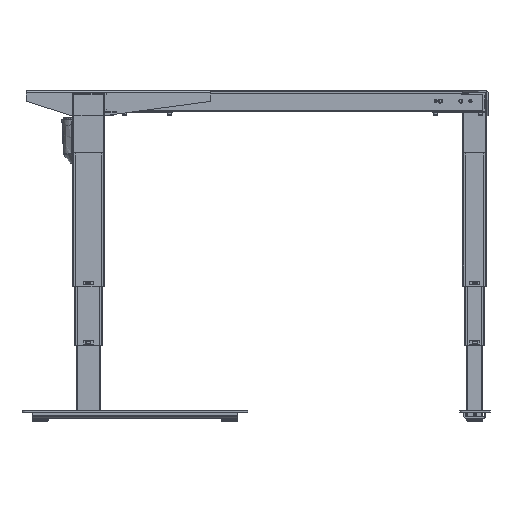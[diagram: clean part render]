
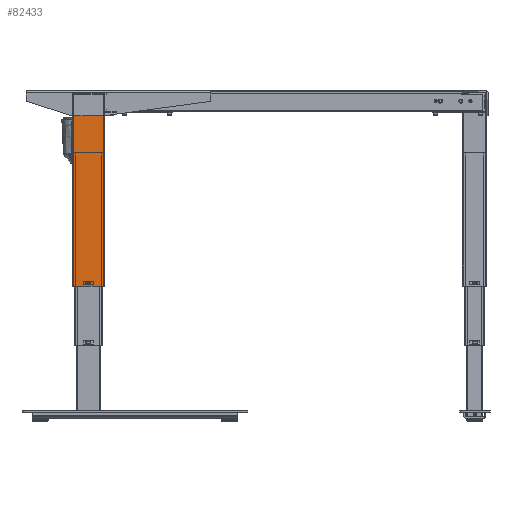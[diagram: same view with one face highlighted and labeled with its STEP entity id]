
A CAD part, left-side view. The second image highlights one B-rep face of the part: STEP entity #82433.
In plain terms, the highlighted planar face has unit normal (-1, 0, 0).
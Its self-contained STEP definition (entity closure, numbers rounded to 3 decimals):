
#227 = CARTESIAN_POINT ( 'NONE',  ( -30., -40., 475. ) ) ;
#582 = FACE_BOUND ( 'NONE', #59984, .T. ) ;
#972 = DIRECTION ( 'NONE',  ( 0., 0., 1. ) ) ;
#1789 = EDGE_CURVE ( 'NONE', #37749, #62254, #34079, .T. ) ;
#4597 = EDGE_CURVE ( 'NONE', #65397, #73222, #30217, .T. ) ;
#6921 = CARTESIAN_POINT ( 'NONE',  ( -30., -6., 10. ) ) ;
#7412 = DIRECTION ( 'NONE',  ( 0., 0., -1. ) ) ;
#8087 = ORIENTED_EDGE ( 'NONE', *, *, #80506, .T. ) ;
#10351 = LINE ( 'NONE', #28507, #59803 ) ;
#10355 = CARTESIAN_POINT ( 'NONE',  ( -30., 37., 475. ) ) ;
#10600 = VERTEX_POINT ( 'NONE', #55456 ) ;
#14096 = ORIENTED_EDGE ( 'NONE', *, *, #96455, .T. ) ;
#18526 = PLANE ( 'NONE',  #58710 ) ;
#19649 = CARTESIAN_POINT ( 'NONE',  ( -30., 37., 0. ) ) ;
#22560 = ORIENTED_EDGE ( 'NONE', *, *, #25320, .T. ) ;
#24163 = VERTEX_POINT ( 'NONE', #36101 ) ;
#25320 = EDGE_CURVE ( 'NONE', #62254, #47276, #10351, .T. ) ;
#25890 = ORIENTED_EDGE ( 'NONE', *, *, #1789, .T. ) ;
#26008 = DIRECTION ( 'NONE',  ( 0., 1., 0. ) ) ;
#26452 = CARTESIAN_POINT ( 'NONE',  ( -30., -37., 0. ) ) ;
#26718 = DIRECTION ( 'NONE',  ( 1., 0., 0. ) ) ;
#28507 = CARTESIAN_POINT ( 'NONE',  ( -30., 6., 10. ) ) ;
#28949 = VECTOR ( 'NONE', #74356, 1000. ) ;
#30217 = LINE ( 'NONE', #36083, #96102 ) ;
#31538 = CARTESIAN_POINT ( 'NONE',  ( -30., 6., 6. ) ) ;
#34079 = LINE ( 'NONE', #68058, #59390 ) ;
#36083 = CARTESIAN_POINT ( 'NONE',  ( -30., 37., 480. ) ) ;
#36101 = CARTESIAN_POINT ( 'NONE',  ( -30., -37., 475. ) ) ;
#36442 = DIRECTION ( 'NONE',  ( 0., 0., -1. ) ) ;
#36469 = EDGE_LOOP ( 'NONE', ( #44168, #49763, #74030, #49002 ) ) ;
#37749 = VERTEX_POINT ( 'NONE', #31538 ) ;
#39119 = CARTESIAN_POINT ( 'NONE',  ( -30., 6., 10. ) ) ;
#39929 = LINE ( 'NONE', #19649, #79212 ) ;
#41538 = LINE ( 'NONE', #227, #28949 ) ;
#44168 = ORIENTED_EDGE ( 'NONE', *, *, #48445, .F. ) ;
#47276 = VERTEX_POINT ( 'NONE', #6921 ) ;
#48445 = EDGE_CURVE ( 'NONE', #24163, #93030, #95662, .T. ) ;
#49002 = ORIENTED_EDGE ( 'NONE', *, *, #83602, .T. ) ;
#49763 = ORIENTED_EDGE ( 'NONE', *, *, #94106, .T. ) ;
#52712 = LINE ( 'NONE', #64832, #70563 ) ;
#55360 = CARTESIAN_POINT ( 'NONE',  ( -30., 37., 0. ) ) ;
#55456 = CARTESIAN_POINT ( 'NONE',  ( -30., -6., 6. ) ) ;
#56015 = CARTESIAN_POINT ( 'NONE',  ( -30., -37., 480. ) ) ;
#58710 = AXIS2_PLACEMENT_3D ( 'NONE', #75208, #26718, #26008 ) ;
#59390 = VECTOR ( 'NONE', #972, 1000. ) ;
#59803 = VECTOR ( 'NONE', #92892, 1000. ) ;
#59984 = EDGE_LOOP ( 'NONE', ( #25890, #22560, #8087, #14096 ) ) ;
#62254 = VERTEX_POINT ( 'NONE', #39119 ) ;
#62994 = VECTOR ( 'NONE', #98859, 1000. ) ;
#64832 = CARTESIAN_POINT ( 'NONE',  ( -30., 6., 6. ) ) ;
#65397 = VERTEX_POINT ( 'NONE', #10355 ) ;
#68058 = CARTESIAN_POINT ( 'NONE',  ( -30., 6., 10. ) ) ;
#68577 = DIRECTION ( 'NONE',  ( 0., -1., 0. ) ) ;
#70563 = VECTOR ( 'NONE', #80390, 1000. ) ;
#73222 = VERTEX_POINT ( 'NONE', #55360 ) ;
#74030 = ORIENTED_EDGE ( 'NONE', *, *, #4597, .T. ) ;
#74356 = DIRECTION ( 'NONE',  ( 0., 1., 0. ) ) ;
#75208 = CARTESIAN_POINT ( 'NONE',  ( -30., 37., 480. ) ) ;
#79212 = VECTOR ( 'NONE', #68577, 1000. ) ;
#79230 = FACE_OUTER_BOUND ( 'NONE', #36469, .T. ) ;
#80390 = DIRECTION ( 'NONE',  ( 0., 1., 0. ) ) ;
#80506 = EDGE_CURVE ( 'NONE', #47276, #10600, #100921, .T. ) ;
#82433 = ADVANCED_FACE ( 'NONE', ( #582, #79230 ), #18526, .F. ) ;
#83602 = EDGE_CURVE ( 'NONE', #73222, #93030, #39929, .T. ) ;
#91065 = CARTESIAN_POINT ( 'NONE',  ( -30., -6., 10. ) ) ;
#92892 = DIRECTION ( 'NONE',  ( 0., -1., 0. ) ) ;
#93030 = VERTEX_POINT ( 'NONE', #26452 ) ;
#93099 = VECTOR ( 'NONE', #7412, 1000. ) ;
#94106 = EDGE_CURVE ( 'NONE', #24163, #65397, #41538, .T. ) ;
#95662 = LINE ( 'NONE', #56015, #93099 ) ;
#96102 = VECTOR ( 'NONE', #36442, 1000. ) ;
#96455 = EDGE_CURVE ( 'NONE', #10600, #37749, #52712, .T. ) ;
#98859 = DIRECTION ( 'NONE',  ( 0., 0., -1. ) ) ;
#100921 = LINE ( 'NONE', #91065, #62994 ) ;
